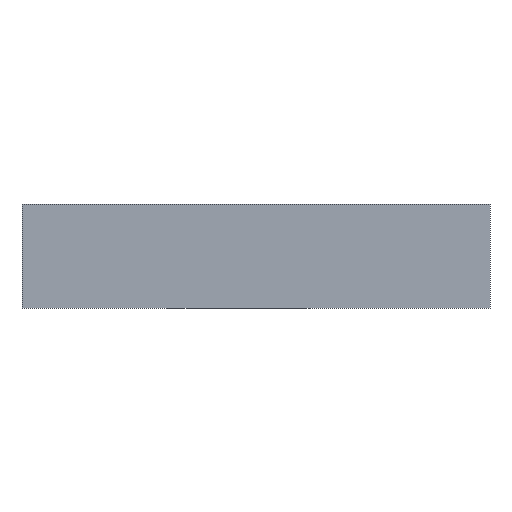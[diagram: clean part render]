
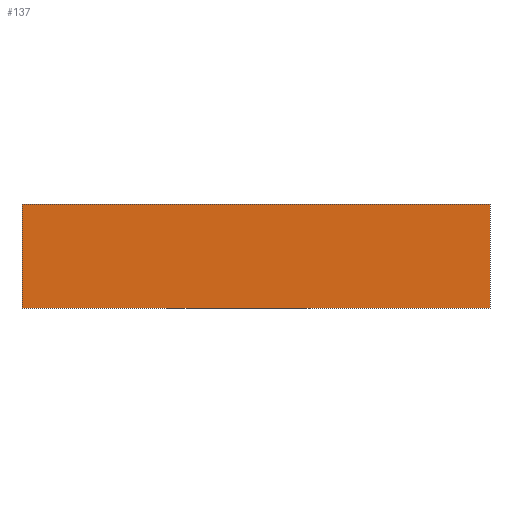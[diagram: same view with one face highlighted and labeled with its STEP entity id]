
A CAD part, front view. The second image highlights one B-rep face of the part: STEP entity #137.
In plain terms, the highlighted planar face has unit normal (0, -1, 0).
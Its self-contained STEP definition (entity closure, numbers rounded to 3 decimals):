
#21 = EDGE_CURVE('',#22,#24,#26,.T.);
#22 = VERTEX_POINT('',#23);
#23 = CARTESIAN_POINT('',(0.,0.,0.));
#24 = VERTEX_POINT('',#25);
#25 = CARTESIAN_POINT('',(0.,0.,2.4));
#26 = SURFACE_CURVE('',#27,(#31,#43),.PCURVE_S1.);
#27 = LINE('',#28,#29);
#28 = CARTESIAN_POINT('',(0.,0.,0.));
#29 = VECTOR('',#30,1.);
#30 = DIRECTION('',(0.,0.,1.));
#31 = PCURVE('',#32,#37);
#32 = PLANE('',#33);
#33 = AXIS2_PLACEMENT_3D('',#34,#35,#36);
#34 = CARTESIAN_POINT('',(0.,0.,0.));
#35 = DIRECTION('',(1.,0.,-0.));
#36 = DIRECTION('',(0.,0.,1.));
#37 = DEFINITIONAL_REPRESENTATION('',(#38),#42);
#38 = LINE('',#39,#40);
#39 = CARTESIAN_POINT('',(0.,0.));
#40 = VECTOR('',#41,1.);
#41 = DIRECTION('',(1.,0.));
#42 = ( GEOMETRIC_REPRESENTATION_CONTEXT(2) 
PARAMETRIC_REPRESENTATION_CONTEXT() REPRESENTATION_CONTEXT('2D SPACE',''
  ) );
#43 = PCURVE('',#44,#49);
#44 = PLANE('',#45);
#45 = AXIS2_PLACEMENT_3D('',#46,#47,#48);
#46 = CARTESIAN_POINT('',(0.,0.,0.));
#47 = DIRECTION('',(-0.,1.,0.));
#48 = DIRECTION('',(0.,0.,1.));
#49 = DEFINITIONAL_REPRESENTATION('',(#50),#54);
#50 = LINE('',#51,#52);
#51 = CARTESIAN_POINT('',(0.,0.));
#52 = VECTOR('',#53,1.);
#53 = DIRECTION('',(1.,0.));
#54 = ( GEOMETRIC_REPRESENTATION_CONTEXT(2) 
PARAMETRIC_REPRESENTATION_CONTEXT() REPRESENTATION_CONTEXT('2D SPACE',''
  ) );
#72 = PLANE('',#73);
#73 = AXIS2_PLACEMENT_3D('',#74,#75,#76);
#74 = CARTESIAN_POINT('',(0.,0.,0.));
#75 = DIRECTION('',(0.,0.,1.));
#76 = DIRECTION('',(1.,0.,-0.));
#126 = PLANE('',#127);
#127 = AXIS2_PLACEMENT_3D('',#128,#129,#130);
#128 = CARTESIAN_POINT('',(0.,0.,2.4));
#129 = DIRECTION('',(0.,0.,1.));
#130 = DIRECTION('',(1.,0.,-0.));
#137 = ADVANCED_FACE('',(#138),#44,.F.);
#138 = FACE_BOUND('',#139,.F.);
#139 = EDGE_LOOP('',(#140,#163,#164,#187));
#140 = ORIENTED_EDGE('',*,*,#141,.F.);
#141 = EDGE_CURVE('',#22,#142,#144,.T.);
#142 = VERTEX_POINT('',#143);
#143 = CARTESIAN_POINT('',(10.8,0.,0.));
#144 = SURFACE_CURVE('',#145,(#149,#156),.PCURVE_S1.);
#145 = LINE('',#146,#147);
#146 = CARTESIAN_POINT('',(0.,0.,0.));
#147 = VECTOR('',#148,1.);
#148 = DIRECTION('',(1.,0.,-0.));
#149 = PCURVE('',#44,#150);
#150 = DEFINITIONAL_REPRESENTATION('',(#151),#155);
#151 = LINE('',#152,#153);
#152 = CARTESIAN_POINT('',(0.,0.));
#153 = VECTOR('',#154,1.);
#154 = DIRECTION('',(0.,1.));
#155 = ( GEOMETRIC_REPRESENTATION_CONTEXT(2) 
PARAMETRIC_REPRESENTATION_CONTEXT() REPRESENTATION_CONTEXT('2D SPACE',''
  ) );
#156 = PCURVE('',#72,#157);
#157 = DEFINITIONAL_REPRESENTATION('',(#158),#162);
#158 = LINE('',#159,#160);
#159 = CARTESIAN_POINT('',(0.,0.));
#160 = VECTOR('',#161,1.);
#161 = DIRECTION('',(1.,0.));
#162 = ( GEOMETRIC_REPRESENTATION_CONTEXT(2) 
PARAMETRIC_REPRESENTATION_CONTEXT() REPRESENTATION_CONTEXT('2D SPACE',''
  ) );
#163 = ORIENTED_EDGE('',*,*,#21,.T.);
#164 = ORIENTED_EDGE('',*,*,#165,.T.);
#165 = EDGE_CURVE('',#24,#166,#168,.T.);
#166 = VERTEX_POINT('',#167);
#167 = CARTESIAN_POINT('',(10.8,0.,2.4));
#168 = SURFACE_CURVE('',#169,(#173,#180),.PCURVE_S1.);
#169 = LINE('',#170,#171);
#170 = CARTESIAN_POINT('',(0.,0.,2.4));
#171 = VECTOR('',#172,1.);
#172 = DIRECTION('',(1.,0.,-0.));
#173 = PCURVE('',#44,#174);
#174 = DEFINITIONAL_REPRESENTATION('',(#175),#179);
#175 = LINE('',#176,#177);
#176 = CARTESIAN_POINT('',(2.4,0.));
#177 = VECTOR('',#178,1.);
#178 = DIRECTION('',(0.,1.));
#179 = ( GEOMETRIC_REPRESENTATION_CONTEXT(2) 
PARAMETRIC_REPRESENTATION_CONTEXT() REPRESENTATION_CONTEXT('2D SPACE',''
  ) );
#180 = PCURVE('',#126,#181);
#181 = DEFINITIONAL_REPRESENTATION('',(#182),#186);
#182 = LINE('',#183,#184);
#183 = CARTESIAN_POINT('',(0.,0.));
#184 = VECTOR('',#185,1.);
#185 = DIRECTION('',(1.,0.));
#186 = ( GEOMETRIC_REPRESENTATION_CONTEXT(2) 
PARAMETRIC_REPRESENTATION_CONTEXT() REPRESENTATION_CONTEXT('2D SPACE',''
  ) );
#187 = ORIENTED_EDGE('',*,*,#188,.F.);
#188 = EDGE_CURVE('',#142,#166,#189,.T.);
#189 = SURFACE_CURVE('',#190,(#194,#201),.PCURVE_S1.);
#190 = LINE('',#191,#192);
#191 = CARTESIAN_POINT('',(10.8,0.,0.));
#192 = VECTOR('',#193,1.);
#193 = DIRECTION('',(0.,0.,1.));
#194 = PCURVE('',#44,#195);
#195 = DEFINITIONAL_REPRESENTATION('',(#196),#200);
#196 = LINE('',#197,#198);
#197 = CARTESIAN_POINT('',(0.,10.8));
#198 = VECTOR('',#199,1.);
#199 = DIRECTION('',(1.,0.));
#200 = ( GEOMETRIC_REPRESENTATION_CONTEXT(2) 
PARAMETRIC_REPRESENTATION_CONTEXT() REPRESENTATION_CONTEXT('2D SPACE',''
  ) );
#201 = PCURVE('',#202,#207);
#202 = PLANE('',#203);
#203 = AXIS2_PLACEMENT_3D('',#204,#205,#206);
#204 = CARTESIAN_POINT('',(10.8,0.,0.));
#205 = DIRECTION('',(1.,0.,-0.));
#206 = DIRECTION('',(0.,0.,1.));
#207 = DEFINITIONAL_REPRESENTATION('',(#208),#212);
#208 = LINE('',#209,#210);
#209 = CARTESIAN_POINT('',(0.,0.));
#210 = VECTOR('',#211,1.);
#211 = DIRECTION('',(1.,0.));
#212 = ( GEOMETRIC_REPRESENTATION_CONTEXT(2) 
PARAMETRIC_REPRESENTATION_CONTEXT() REPRESENTATION_CONTEXT('2D SPACE',''
  ) );
